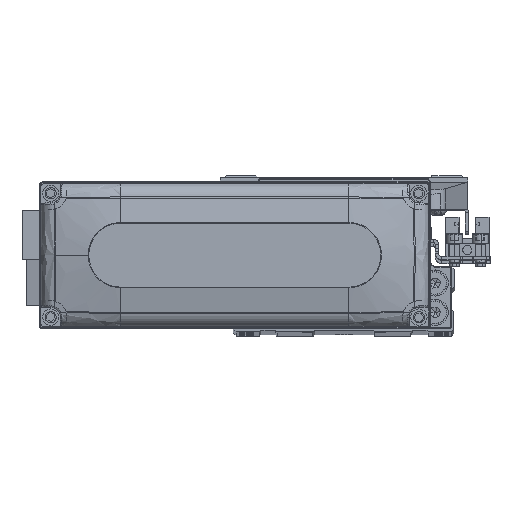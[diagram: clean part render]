
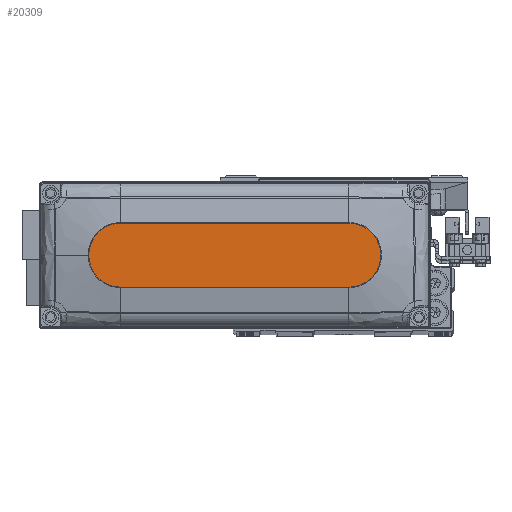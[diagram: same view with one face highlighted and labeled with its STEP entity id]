
A CAD part, top view. The second image highlights one B-rep face of the part: STEP entity #20309.
In plain terms, the highlighted planar face has unit normal (0, 0, 1).
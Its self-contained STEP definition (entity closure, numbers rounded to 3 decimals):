
#878 = CARTESIAN_POINT ( 'NONE',  ( -35., -10., 28. ) ) ;
#2198 = EDGE_CURVE ( 'NONE', #32084, #22331, #33860, .T. ) ;
#3101 = LINE ( 'NONE', #17194, #28339 ) ;
#6160 = VERTEX_POINT ( 'NONE', #37280 ) ;
#6280 = CARTESIAN_POINT ( 'NONE',  ( 35., 0., 28. ) ) ;
#6625 = AXIS2_PLACEMENT_3D ( 'NONE', #6280, #20393, #34566 ) ;
#6754 = EDGE_LOOP ( 'NONE', ( #7859, #17589, #30839, #22725, #18321 ) ) ;
#7859 = ORIENTED_EDGE ( 'NONE', *, *, #21364, .T. ) ;
#8604 = DIRECTION ( 'NONE',  ( 0., 0., 1. ) ) ;
#9070 = CARTESIAN_POINT ( 'NONE',  ( 45., 0., 28. ) ) ;
#9167 = LINE ( 'NONE', #23288, #41439 ) ;
#9948 = CARTESIAN_POINT ( 'NONE',  ( 35., 0., 28. ) ) ;
#11595 = CARTESIAN_POINT ( 'NONE',  ( -35., 0., 28. ) ) ;
#12074 = FACE_OUTER_BOUND ( 'NONE', #6754, .T. ) ;
#14971 = CIRCLE ( 'NONE', #40901, 10. ) ;
#17194 = CARTESIAN_POINT ( 'NONE',  ( -35., 10., 28. ) ) ;
#17589 = ORIENTED_EDGE ( 'NONE', *, *, #22704, .T. ) ;
#18288 = EDGE_CURVE ( 'NONE', #42934, #32084, #9167, .T. ) ;
#18321 = ORIENTED_EDGE ( 'NONE', *, *, #32749, .T. ) ;
#20309 = ADVANCED_FACE ( 'NONE', ( #12074 ), #26214, .T. ) ;
#20393 = DIRECTION ( 'NONE',  ( 0., 0., 1. ) ) ;
#20834 = AXIS2_PLACEMENT_3D ( 'NONE', #40357, #8604, #22734 ) ;
#21364 = EDGE_CURVE ( 'NONE', #6160, #21907, #3101, .T. ) ;
#21907 = VERTEX_POINT ( 'NONE', #37636 ) ;
#22331 = VERTEX_POINT ( 'NONE', #9070 ) ;
#22704 = EDGE_CURVE ( 'NONE', #21907, #42934, #14971, .T. ) ;
#22725 = ORIENTED_EDGE ( 'NONE', *, *, #2198, .T. ) ;
#22734 = DIRECTION ( 'NONE',  ( 1., 0., 0. ) ) ;
#23288 = CARTESIAN_POINT ( 'NONE',  ( -35., -10., 28. ) ) ;
#24079 = DIRECTION ( 'NONE',  ( 0., 0., 1. ) ) ;
#25725 = DIRECTION ( 'NONE',  ( 0., 0., 1. ) ) ;
#26214 = PLANE ( 'NONE',  #20834 ) ;
#26591 = CIRCLE ( 'NONE', #6625, 10. ) ;
#28339 = VECTOR ( 'NONE', #31378, 1000. ) ;
#30839 = ORIENTED_EDGE ( 'NONE', *, *, #18288, .T. ) ;
#31378 = DIRECTION ( 'NONE',  ( -1., 0., 0. ) ) ;
#31691 = AXIS2_PLACEMENT_3D ( 'NONE', #9948, #24079, #38223 ) ;
#32084 = VERTEX_POINT ( 'NONE', #39962 ) ;
#32749 = EDGE_CURVE ( 'NONE', #22331, #6160, #26591, .T. ) ;
#33860 = CIRCLE ( 'NONE', #31691, 10. ) ;
#34566 = DIRECTION ( 'NONE',  ( 1., 0., 0. ) ) ;
#37280 = CARTESIAN_POINT ( 'NONE',  ( 35., 10., 28. ) ) ;
#37440 = DIRECTION ( 'NONE',  ( 1., 0., 0. ) ) ;
#37636 = CARTESIAN_POINT ( 'NONE',  ( -35., 10., 28. ) ) ;
#38223 = DIRECTION ( 'NONE',  ( 1., 0., 0. ) ) ;
#39865 = DIRECTION ( 'NONE',  ( 1., 0., 0. ) ) ;
#39962 = CARTESIAN_POINT ( 'NONE',  ( 35., -10., 28. ) ) ;
#40357 = CARTESIAN_POINT ( 'NONE',  ( 0., 0., 28. ) ) ;
#40901 = AXIS2_PLACEMENT_3D ( 'NONE', #11595, #25725, #39865 ) ;
#41439 = VECTOR ( 'NONE', #37440, 1000. ) ;
#42934 = VERTEX_POINT ( 'NONE', #878 ) ;
